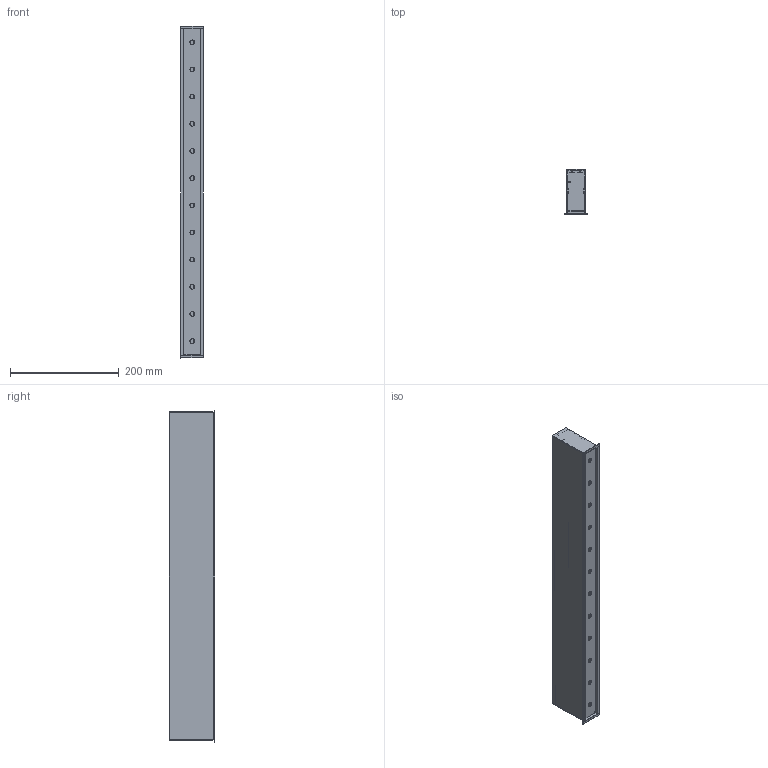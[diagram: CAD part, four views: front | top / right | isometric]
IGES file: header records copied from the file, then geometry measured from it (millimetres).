
Start section: SolidWorks IGES file using analytic representation for surfaces
Global section: file name: C:\Users\JoãoSantos\Desktop\02_3D.2D\01_2020\02_Linear\14_inVision35\02_Recessed\INVISION35_RECESSED_611.IGS; native system: SolidWorks 2020; preprocessor: SolidWorks 2020; author: JoãoSantos; date: 201028.154628; units: millimetre
Bounding box: 42 x 83 x 611 mm (x, y, z)
Surface area: 358403.7 mm2 (no closed solid volume)
Topology: 0 solids, 0 shells, 221 faces, 2428 edges, 2420 vertices
Faces by surface type: revolution 123, bspline 98
